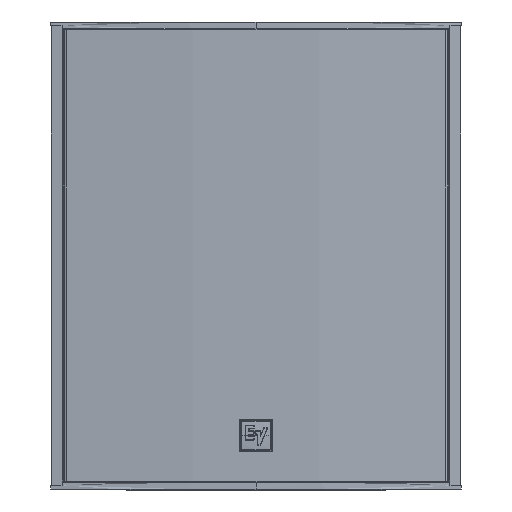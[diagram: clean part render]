
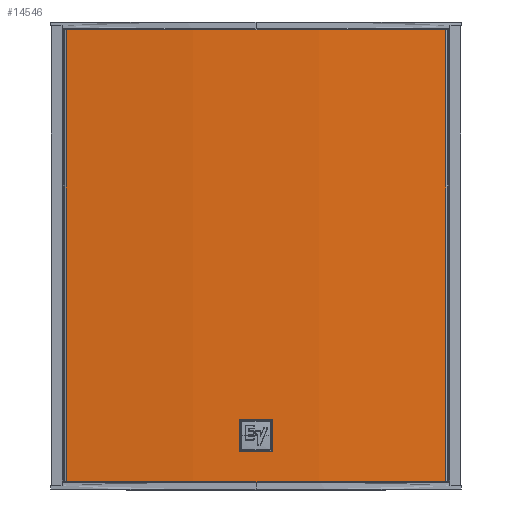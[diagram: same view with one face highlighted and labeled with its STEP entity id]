
A CAD part, top view. The second image highlights one B-rep face of the part: STEP entity #14546.
In plain terms, the highlighted cylindrical face has radius 2921 mm (diameter 5842 mm), a partial arc.
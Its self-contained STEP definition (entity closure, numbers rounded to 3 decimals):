
#559 = CARTESIAN_POINT ( 'NONE',  ( -312.522, 371.655, -15.167 ) ) ;
#696 = VECTOR ( 'NONE', #16525, 1000. ) ;
#822 = VECTOR ( 'NONE', #7961, 1000. ) ;
#2924 = EDGE_CURVE ( 'NONE', #14475, #7448, #16666, .T. ) ;
#3421 = CARTESIAN_POINT ( 'NONE',  ( 312.522, -371.655, -15.167 ) ) ;
#3473 = CARTESIAN_POINT ( 'NONE',  ( -312.522, 371.655, -15.167 ) ) ;
#3978 = EDGE_CURVE ( 'NONE', #4130, #7817, #5054, .T. ) ;
#4130 = VERTEX_POINT ( 'NONE', #6948 ) ;
#4883 = ORIENTED_EDGE ( 'NONE', *, *, #15451, .F. ) ;
#5054 = CIRCLE ( 'NONE', #8721, 2921. ) ;
#5219 = ORIENTED_EDGE ( 'NONE', *, *, #6726, .T. ) ;
#5555 = DIRECTION ( 'NONE',  ( 0., -1., 0. ) ) ;
#5657 = CARTESIAN_POINT ( 'NONE',  ( 312.522, 371.655, -15.167 ) ) ;
#5995 = AXIS2_PLACEMENT_3D ( 'NONE', #19158, #11234, #12697 ) ;
#6726 = EDGE_CURVE ( 'NONE', #14475, #4130, #7760, .T. ) ;
#6948 = CARTESIAN_POINT ( 'NONE',  ( -312.522, -371.655, -15.167 ) ) ;
#7215 = LINE ( 'NONE', #5657, #696 ) ;
#7448 = VERTEX_POINT ( 'NONE', #13740 ) ;
#7760 = LINE ( 'NONE', #3473, #822 ) ;
#7817 = VERTEX_POINT ( 'NONE', #3421 ) ;
#7961 = DIRECTION ( 'NONE',  ( 0., -1., 0. ) ) ;
#8567 = CARTESIAN_POINT ( 'NONE',  ( 0., 371.655, -2919.4 ) ) ;
#8602 = ORIENTED_EDGE ( 'NONE', *, *, #3978, .T. ) ;
#8721 = AXIS2_PLACEMENT_3D ( 'NONE', #10758, #20449, #20142 ) ;
#10758 = CARTESIAN_POINT ( 'NONE',  ( 0., -371.655, -2919.4 ) ) ;
#11063 = ORIENTED_EDGE ( 'NONE', *, *, #2924, .F. ) ;
#11234 = DIRECTION ( 'NONE',  ( 0., 1., 0. ) ) ;
#12697 = DIRECTION ( 'NONE',  ( 1., 0., 0. ) ) ;
#13183 = DIRECTION ( 'NONE',  ( 0., 0., -1. ) ) ;
#13740 = CARTESIAN_POINT ( 'NONE',  ( 312.522, 371.655, -15.167 ) ) ;
#14475 = VERTEX_POINT ( 'NONE', #559 ) ;
#14546 = ADVANCED_FACE ( 'NONE', ( #18287 ), #19852, .T. ) ;
#15451 = EDGE_CURVE ( 'NONE', #7448, #7817, #7215, .T. ) ;
#15962 = AXIS2_PLACEMENT_3D ( 'NONE', #8567, #5555, #13183 ) ;
#16525 = DIRECTION ( 'NONE',  ( 0., -1., 0. ) ) ;
#16666 = CIRCLE ( 'NONE', #5995, 2921. ) ;
#18249 = EDGE_LOOP ( 'NONE', ( #8602, #4883, #11063, #5219 ) ) ;
#18287 = FACE_OUTER_BOUND ( 'NONE', #18249, .T. ) ;
#19158 = CARTESIAN_POINT ( 'NONE',  ( 0., 371.655, -2919.4 ) ) ;
#19852 = CYLINDRICAL_SURFACE ( 'NONE', #15962, 2921. ) ;
#20142 = DIRECTION ( 'NONE',  ( 1., 0., 0. ) ) ;
#20449 = DIRECTION ( 'NONE',  ( 0., 1., 0. ) ) ;
